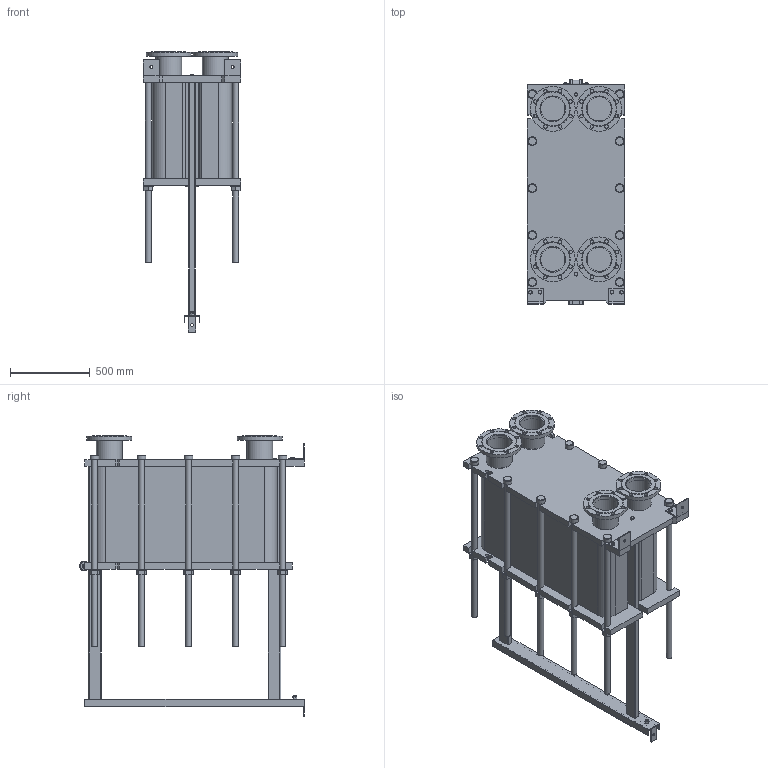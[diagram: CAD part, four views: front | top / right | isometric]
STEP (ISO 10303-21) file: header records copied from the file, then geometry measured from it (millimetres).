
FILE_DESCRIPTION(/* description */ (''),/* implementation_level */ '2;1');
FILE_NAME(/* name */ 'C:\Users\zhuro\Desktop\ENCO\TO\ЭН-041\ЭН-0,5-041-175-1.stp',/* time_stamp */ '2022-06-06T11:04:51+03:00',/* author */ ('zhuro'),/* organization */ (''),/* preprocessor_version */ 'ST-DEVELOPER v18.1',/* originating_system */ 'Autodesk Inventor 2022',/* authorisation */ '');
FILE_SCHEMA (('AUTOMOTIVE_DESIGN { 1 0 10303 214 3 1 1 }'));
Length unit declared in the file: millimetre
Products named in the file (1): ЭН-0,5-041-175-1
Bounding box: 610 x 1406.5 x 1752.5 mm (x, y, z)
Volume: 425315100.9 mm3; surface area: 10678199.6 mm2
Topology: 52 solids, 52 shells, 711 faces, 1696 edges, 1094 vertices
Faces by surface type: plane 487, cylinder 177, cone 41, torus 6
Full cylindrical faces by diameter (mm): 8 x4, 10 x2, 16 x8, 18 x3, 22 x32, 36 x24, 50 x1, 54 x10, 60 x12, 151 x4, 161 x8, 280 x4
Entity records: 22667 total; most frequent: CARTESIAN_POINT 5230, DIRECTION 3644, ORIENTED_EDGE 3392, EDGE_CURVE 1696, AXIS2_PLACEMENT_3D 1272, LINE 1100, VECTOR 1100, VERTEX_POINT 1094
